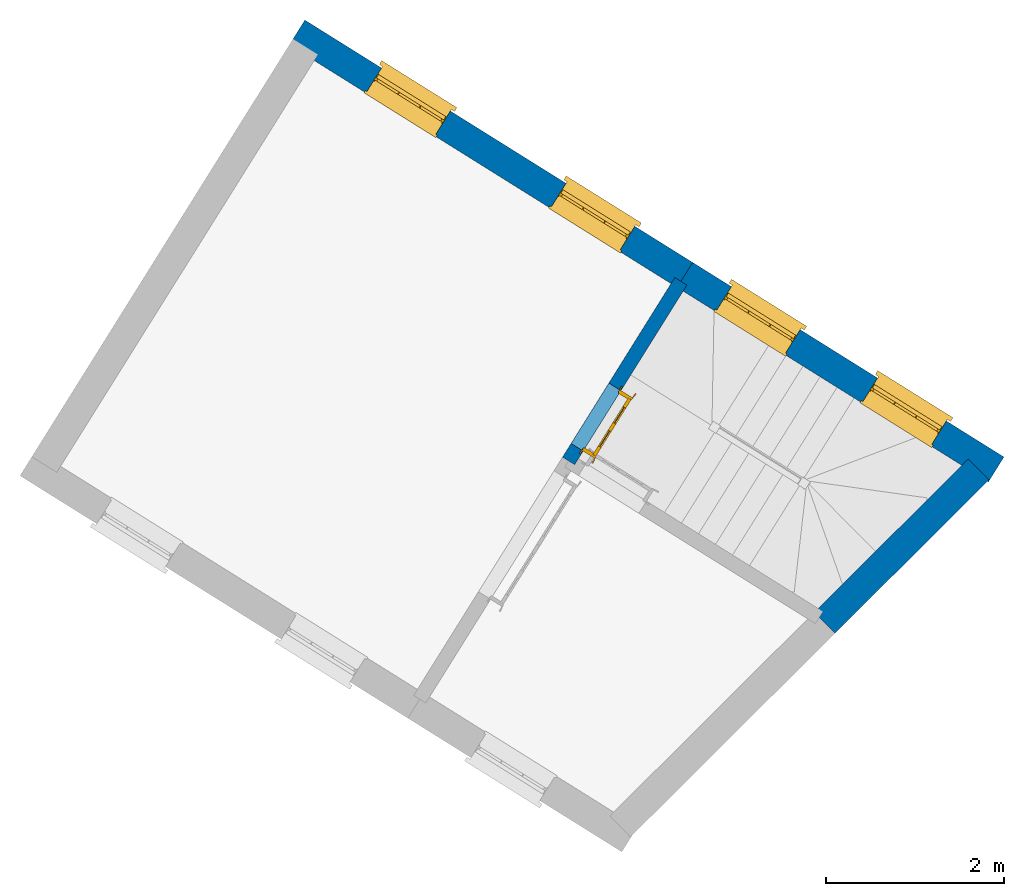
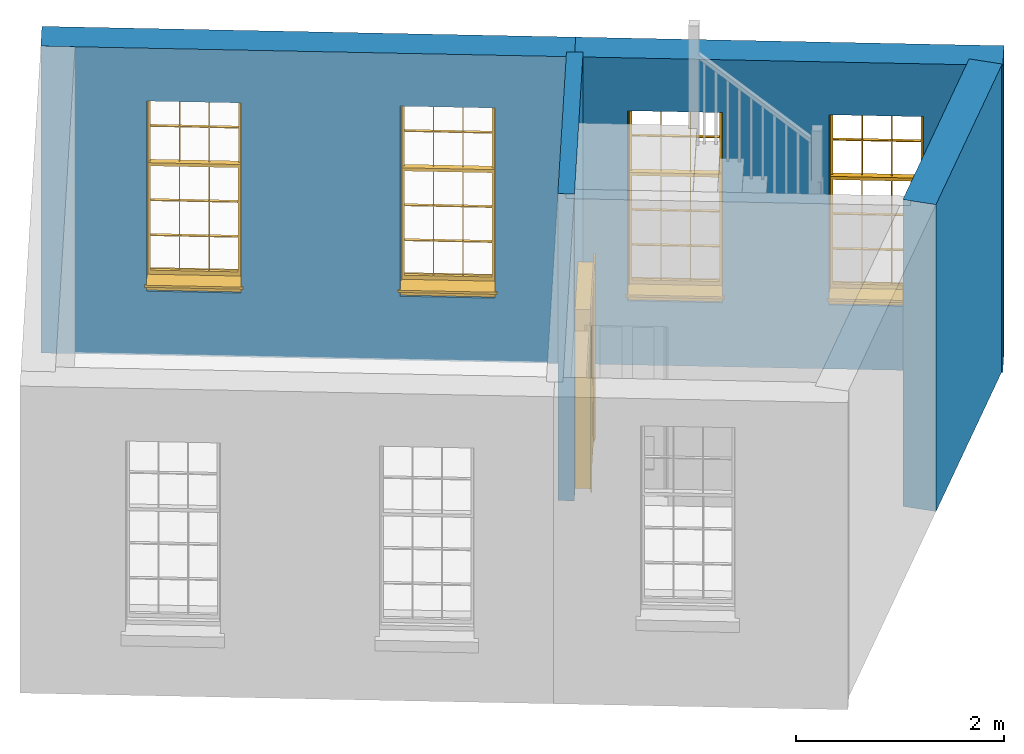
# One storey, part 3 of 3: 4 walls, 4 windows, 1 door, 5 openings.
"""IFC4 building model written with IfcOpenShell, lengths in metres."""

from ifc_helpers import new_model, si_unit, frame, origin, origin_with_axes, place, context, subcontext, project, spatial, polyline, outline, extrude, faceted_brep, source, transform, mapped, material, layer, layer_set, layer_usage, type_object, type_shapes, element, fill, save


model = new_model("IFC4")

# Units and contexts
model_context = context("Model", 3, world=origin_with_axes())
body_context = subcontext(model_context, "Body", "Model", "MODEL_VIEW")
ifc_project = project(units=[si_unit("PLANEANGLEUNIT", "RADIAN"), si_unit("MASSUNIT", "GRAM", prefix="KILO"), si_unit("FORCEUNIT", "NEWTON", prefix="KILO"), si_unit("LENGTHUNIT", "METRE"), si_unit("AREAUNIT", "SQUARE_METRE"), si_unit("VOLUMEUNIT", "CUBIC_METRE")], contexts=[model_context, model_context])

# Sites, building, storey
site_1_placement = place(None, origin_with_axes())
site_1 = spatial("IfcSite", under=ifc_project, at=site_1_placement, Name="Tamar")
site_2_placement = place(site_1_placement, origin_with_axes())
site_2 = spatial("IfcSite", under=site_1, at=site_2_placement, Name="Site plot-4", CompositionType="ELEMENT")
building_placement = place(None, origin_with_axes())
building = spatial("IfcBuilding", under=site_2, at=building_placement, Name="Building plot-4", CompositionType="ELEMENT")
storey_placement = place(None, frame((0.0, 0.0, 27.8), z_axis=(0.0, 0.0, 1.0), x_axis=(1.0, 0.0, 0.0)))
storey = spatial("IfcBuildingStorey", under=building, at=storey_placement, Name="plot-4 1", CompositionType="ELEMENT", Elevation=27.8)

# Wall, openings, windows
ifc_material_1 = material(Name="Masonry")
ifc_layer_1 = layer(ifc_material_1, 0.33, ventilated=False)
ifc_layer_set_1 = layer_set([ifc_layer_1], Name="exterior_0.08_0.25")
ifc_layer_usage_1 = layer_usage(ifc_layer_set_1, "AXIS2", "POSITIVE", -0.25)
wall_type_1 = type_object("IfcWallType", Name="exterior_0.08_0.25", PredefinedType="SOLIDWALL", material=ifc_layer_set_1)
wall_1_placement = place(storey_placement, frame((228.178329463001, 281.531399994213, 0.0), z_axis=(0.0, 0.0, 1.0), x_axis=(-0.847981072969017, 0.530026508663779, 0.0)))
wall_1 = element("IfcWall", 1, at=wall_1_placement, inside=storey, type_object=wall_type_1, material=ifc_layer_usage_1, Name="exterior", context=body_context, shape_type="SweptSolid", body=[
    extrude(outline(polyline([(-0.249999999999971, 0.0799999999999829), (-0.249999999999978, -0.250000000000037), (3.86736989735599, -0.250000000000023), (3.86736989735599, 0.0799999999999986), (-0.249999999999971, 0.0799999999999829)])), origin_with_axes(), (0.0, 0.0, 1.0), 3.6),
])
opening_1_placement = place(wall_1_placement, frame((0.511842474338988, 0.0, 0.75)))
opening_1 = element("IfcOpeningElement", 2, at=opening_1_placement, cuts=wall_1, Name="My Opening", ObjectType="Opening", context=body_context, shape_type="SweptSolid", body=[
    extrude(outline(polyline([(0.0, -0.269999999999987), (0.91, -0.270000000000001), (0.910000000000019, 1.09999999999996), (1.94289029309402e-14, 1.09999999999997), (0.0, -0.269999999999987)])), origin_with_axes(), (0.0, 0.0, 1.0), 2.23),
])
opening_2_placement = place(wall_1_placement, frame((2.44552742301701, 0.0, 0.75)))
opening_2 = element("IfcOpeningElement", 3, at=opening_2_placement, cuts=wall_1, Name="My Opening", ObjectType="Opening", context=body_context, shape_type="SweptSolid", body=[
    extrude(outline(polyline([(0.0, -0.270000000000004), (0.91, -0.270000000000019), (0.910000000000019, 1.09999999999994), (1.90958360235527e-14, 1.09999999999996), (0.0, -0.270000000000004)])), origin_with_axes(), (0.0, 0.0, 1.0), 2.23),
])
window_type = type_object("IfcWindowType", Name="sash_big_taller", PartitioningType="DOUBLE_PANEL_HORIZONTAL", PredefinedType="NOTDEFINED")
shared_shape_1 = source(origin(), body_context, "Body", "Brep", [
    faceted_brep([(0.033125, 0.145, 1.385209), (0.01, 0.145, 1.385209), (0.033125, 0.145, 1.786042), (0.876875, 0.145, 1.385209), (0.876875, 0.145, 1.786042), (0.9, 0.145, 1.385209), (0.876875, 0.145, 1.796042), (0.876875, 0.145, 2.196875), (0.9, 0.145, 2.22), (0.033125, 0.145, 2.196875), (0.033125, 0.145, 1.796042), (0.01, 0.145, 2.22), (0.876875, 0.115, 1.786042), (0.876875, 0.115, 1.385209), (0.9, 0.115, 1.347084), (0.033125, 0.115, 2.196875), (0.01, 0.115, 2.22), (0.033125, 0.115, 1.796042), (0.01, 0.115, 1.347084), (0.033125, 0.115, 1.385209), (0.033125, 0.115, 1.786042), (0.876875, 0.115, 2.196875), (0.876875, 0.115, 1.796042), (0.9, 0.115, 2.22), (0.033125, 0.145, 1.347084), (0.01, 0.145, 1.347084), (0.033125, 0.145, 0.94625), (0.876875, 0.145, 1.347084), (0.876875, 0.145, 0.94625), (0.9, 0.145, 1.347084), (0.876875, 0.145, 0.52625), (0.876875, 0.145, 0.125417), (0.9, 0.145, 0.077167), (0.033125, 0.145, 0.125417), (0.033125, 0.145, 0.52625), (0.01, 0.145, 0.077167), (-0.0425, 0.0, 0.01), (-0.0425, -0.05, 0.001667), (0.0, 0.0, 0.01), (0.9525, 0.0, 0.01), (0.91, 0.0, 0.01), (0.9525, -0.05, 0.001667), (-0.02, 0.33, 0.077167), (0.0, 0.33, 0.077167), (-0.02, 0.36, 0.077167), (0.0, 0.19, 0.077167), (0.01, 0.19, 0.077167), (0.91, 0.19, 0.077167), (0.91, 0.33, 0.077167), (0.9, 0.19, 0.077167), (0.93, 0.33, 0.077167), (0.93, 0.36, 0.077167), (0.01, 0.175, 1.385209), (0.9, 0.175, 1.385209), (0.876875, 0.175, 0.125417), (0.876875, 0.175, 0.52625), (0.9, 0.175, 0.077167), (0.876875, 0.175, 0.94625), (0.876875, 0.175, 1.347084), (0.033125, 0.175, 0.125417), (0.01, 0.175, 0.077167), (0.033125, 0.175, 0.52625), (0.033125, 0.175, 1.347084), (0.033125, 0.175, 0.94625), (-0.02, 0.33, 0.052167), (-0.02, 0.36, 0.052167), (0.93, 0.36, 0.052167), (0.93, 0.33, 0.052167), (0.91, 0.33, 0.052167), (0.0, 0.33, 0.052167), (0.91, 0.1, 0.026667), (0.0, 0.1, 0.026667), (-0.0425, -0.05, -0.123333), (0.9525, -0.05, -0.123333), (-0.0425, 0.0, -0.123333), (0.9525, 0.0, -0.123333), (0.01, 0.19, 2.22), (0.9, 0.19, 2.22), (0.0, 0.19, 2.23), (0.91, 0.19, 2.23), (0.01, 0.1, 0.077167), (0.9, 0.1, 0.077167), (0.592292, 0.145, 0.125417), (0.592292, 0.175, 0.125417), (0.317708, 0.175, 0.125417), (0.317708, 0.145, 0.125417), (0.592292, 0.145, 0.53625), (0.317708, 0.145, 0.53625), (0.317708, 0.145, 0.52625), (0.592292, 0.145, 0.52625), (0.592292, 0.175, 0.53625), (0.317708, 0.175, 0.53625), (0.592292, 0.115, 1.796042), (0.592292, 0.145, 1.796042), (0.317708, 0.145, 1.796042), (0.317708, 0.115, 1.796042), (0.317708, 0.115, 1.786042), (0.592292, 0.115, 1.786042), (0.317708, 0.145, 1.786042), (0.592292, 0.145, 1.786042), (0.602292, 0.115, 1.786042), (0.592292, 0.115, 1.385209), (0.602292, 0.115, 1.385209), (0.602292, 0.145, 1.385209), (0.592292, 0.145, 1.385209), (0.602292, 0.145, 1.786042), (0.876875, 0.145, 0.53625), (0.876875, 0.175, 0.53625), (0.602292, 0.175, 0.53625), (0.602292, 0.145, 0.53625), (0.317708, 0.175, 0.52625), (0.307708, 0.175, 0.125417), (0.307708, 0.175, 0.52625), (0.602292, 0.175, 0.52625), (0.602292, 0.175, 0.125417), (0.592292, 0.175, 0.52625), (0.307708, 0.175, 0.53625), (0.033125, 0.175, 0.53625), (0.317708, 0.175, 1.347084), (0.317708, 0.175, 0.94625), (0.307708, 0.175, 0.94625), (0.307708, 0.175, 1.347084), (0.602292, 0.175, 1.347084), (0.602292, 0.175, 0.94625), (0.592292, 0.175, 0.94625), (0.592292, 0.175, 1.347084), (0.307708, 0.145, 0.52625), (0.307708, 0.145, 0.125417), (0.307708, 0.145, 0.53625), (0.033125, 0.145, 0.53625), (0.307708, 0.145, 1.347084), (0.307708, 0.145, 0.94625), (0.592292, 0.145, 1.347084), (0.592292, 0.145, 0.94625), (0.317708, 0.145, 0.94625), (0.317708, 0.145, 1.347084), (0.602292, 0.145, 0.94625), (0.602292, 0.145, 1.347084), (0.602292, 0.145, 0.52625), (0.602292, 0.145, 0.125417), (0.307708, 0.115, 1.796042), (0.307708, 0.115, 1.786042), (0.307708, 0.115, 1.385209), (0.317708, 0.115, 1.385209), (0.317708, 0.115, 2.196875), (0.307708, 0.115, 2.196875), (0.602292, 0.115, 2.196875), (0.592292, 0.115, 2.196875), (0.602292, 0.115, 1.796042), (0.602292, 0.145, 1.796042), (0.307708, 0.145, 1.796042), (0.307708, 0.145, 2.196875), (0.317708, 0.145, 2.196875), (0.592292, 0.145, 2.196875), (0.602292, 0.145, 2.196875), (0.307708, 0.145, 1.786042), (0.317708, 0.145, 1.385209), (0.307708, 0.145, 1.385209), (0.876875, 0.175, 0.93625), (0.033125, 0.175, 0.93625), (0.033125, 0.145, 0.93625), (0.876875, 0.145, 0.93625), (0.91, 0.1, 2.23), (0.9, 0.1, 2.22), (0.01, 0.1, 2.22), (0.0, 0.1, 2.23), (0.91, 0.0, 0.0), (0.0, 0.0, 0.0), (0.91, 0.33, 0.0), (0.0, 0.33, 0.0), (0.317708, 0.145, 0.93625), (0.592292, 0.145, 0.93625), (0.317708, 0.175, 0.93625), (0.307708, 0.175, 0.93625), (0.602292, 0.175, 0.93625), (0.592292, 0.175, 0.93625), (0.307708, 0.145, 0.93625), (0.602292, 0.145, 0.93625)], [[[0, 1, 2]], [[3, 4, 5]], [[6, 7, 8]], [[9, 10, 11]], [[12, 13, 14]], [[15, 16, 17]], [[18, 19, 20]], [[21, 22, 23]], [[24, 25, 26]], [[27, 28, 29]], [[30, 31, 32]], [[33, 34, 35]], [[14, 27, 29]], [[25, 24, 18]], [[36, 37, 38]], [[39, 40, 41]], [[42, 43, 44]], [[45, 46, 43]], [[47, 48, 49]], [[50, 51, 48]], [[1, 0, 52]], [[5, 53, 3]], [[54, 55, 56]], [[57, 58, 53]], [[59, 60, 61]], [[62, 63, 52]], [[48, 43, 46, 49]], [[51, 44, 43, 48]], [[64, 42, 44, 65]], [[65, 44, 51, 66]], [[66, 51, 50, 67]], [[65, 66, 68, 69]], [[60, 56, 49, 46]], [[70, 71, 38, 40]], [[37, 41, 40, 38]], [[37, 72, 73, 41]], [[74, 75, 73, 72]], [[8, 11, 76, 77]], [[76, 78, 79, 77]], [[32, 35, 80, 81]], [[81, 80, 71, 70]], [[82, 83, 84, 85]], [[86, 87, 88, 89]], [[86, 90, 91, 87]], [[92, 93, 94, 95]], [[92, 95, 96, 97]], [[96, 98, 99, 97]], [[100, 97, 101, 102]], [[103, 104, 99, 105]], [[97, 99, 104, 101]], [[102, 103, 105, 100]], [[106, 107, 108, 109]], [[110, 84, 111, 112]], [[113, 114, 83, 115]], [[116, 112, 61, 117]], [[90, 115, 110, 91]], [[118, 119, 120, 121]], [[122, 123, 124, 125]], [[113, 108, 107, 55]], [[126, 112, 111, 127]], [[34, 61, 112, 126]], [[89, 115, 83, 82]], [[88, 110, 115, 89]], [[85, 84, 110, 88]], [[128, 116, 117, 129]], [[130, 121, 120, 131]], [[132, 125, 124, 133]], [[134, 119, 118, 135]], [[136, 123, 122, 137]], [[138, 113, 55, 30]], [[139, 114, 113, 138]], [[138, 30, 106, 109]], [[88, 126, 127, 85]], [[138, 89, 82, 139]], [[137, 132, 133, 136]], [[128, 129, 34, 126]], [[135, 130, 131, 134]], [[140, 17, 20, 141]], [[96, 141, 142, 143]], [[144, 145, 140, 95]], [[146, 147, 92, 148]], [[100, 12, 22, 148]], [[149, 6, 4, 105]], [[94, 150, 151, 152]], [[149, 93, 153, 154]], [[99, 98, 94, 93]], [[155, 2, 10, 150]], [[156, 157, 155, 98]], [[141, 155, 157, 142]], [[20, 2, 155, 141]], [[143, 156, 98, 96]], [[140, 150, 10, 17]], [[145, 151, 150, 140]], [[147, 153, 93, 92]], [[95, 94, 152, 144]], [[22, 6, 149, 148]], [[148, 149, 154, 146]], [[100, 105, 4, 12]], [[109, 86, 89, 138]], [[108, 113, 115, 90]], [[91, 110, 112, 116]], [[87, 128, 126, 88]], [[97, 100, 148, 92]], [[141, 96, 95, 140]], [[98, 155, 150, 94]], [[105, 99, 93, 149]], [[143, 101, 104, 156]], [[135, 118, 125, 132]], [[144, 152, 153, 147]], [[127, 111, 59, 33]], [[15, 9, 151, 145]], [[146, 154, 7, 21]], [[31, 54, 114, 139]], [[36, 74, 72, 37]], [[39, 41, 73, 75]], [[18, 14, 101, 143]], [[23, 16, 144, 147]], [[83, 56, 60, 84]], [[52, 53, 125, 118]], [[53, 52, 156, 104]], [[11, 8, 153, 152]], [[14, 18, 135, 132]], [[2, 1, 11, 10]], [[8, 5, 4, 6]], [[57, 53, 56, 158]], [[60, 52, 63, 159]], [[26, 25, 35, 160]], [[32, 29, 28, 161]], [[14, 23, 22, 12]], [[18, 20, 17, 16]], [[19, 0, 2, 20]], [[17, 10, 9, 15]], [[12, 4, 3, 13]], [[21, 7, 6, 22]], [[27, 58, 57, 28]], [[30, 55, 54, 31]], [[33, 59, 61, 34]], [[26, 63, 62, 24]], [[5, 8, 77, 53]], [[76, 11, 1, 52]], [[46, 45, 78, 76]], [[49, 77, 79, 47]], [[70, 162, 163, 81]], [[71, 80, 164, 165]], [[19, 142, 157, 0]], [[102, 13, 3, 103]], [[121, 130, 24, 62]], [[29, 32, 81, 14]], [[80, 35, 25, 18]], [[60, 46, 76, 52]], [[77, 49, 56, 53]], [[23, 14, 81, 163]], [[16, 164, 80, 18]], [[35, 85, 127]], [[127, 33, 35]], [[139, 82, 32]], [[32, 31, 139]], [[32, 82, 85, 35]], [[102, 101, 14]], [[14, 13, 102]], [[18, 143, 142]], [[142, 19, 18]], [[146, 21, 23]], [[23, 147, 146]], [[16, 15, 145]], [[145, 144, 16]], [[11, 152, 151]], [[151, 9, 11]], [[154, 153, 8]], [[8, 7, 154]], [[23, 163, 164, 16]], [[162, 165, 164, 163]], [[52, 118, 121]], [[121, 62, 52]], [[125, 53, 122]], [[58, 122, 53]], [[27, 137, 122, 58]], [[56, 83, 114]], [[114, 54, 56]], [[111, 84, 60]], [[60, 59, 111]], [[137, 27, 14]], [[14, 132, 137]], [[130, 135, 18]], [[18, 24, 130]], [[157, 156, 52]], [[52, 0, 157]], [[103, 3, 53]], [[53, 104, 103]], [[79, 78, 165, 162]], [[78, 45, 71, 165]], [[162, 70, 47, 79]], [[166, 75, 74, 167]], [[68, 66, 67]], [[48, 68, 67, 50]], [[69, 64, 65]], [[42, 64, 69, 43]], [[69, 68, 168, 169]], [[70, 68, 48, 47]], [[166, 168, 68, 70]], [[43, 69, 71, 45]], [[69, 169, 167, 71]], [[168, 166, 167, 169]], [[38, 167, 74, 36]], [[71, 167, 38]], [[39, 75, 166, 40]], [[40, 166, 70]], [[133, 134, 170, 171]], [[133, 124, 119, 134]], [[28, 57, 123, 136]], [[172, 91, 116, 173]], [[174, 108, 90, 175]], [[120, 173, 159, 63]], [[124, 175, 172, 119]], [[174, 123, 57, 158]], [[176, 173, 116, 128]], [[160, 159, 173, 176]], [[171, 175, 90, 86]], [[170, 172, 175, 171]], [[87, 91, 172, 170]], [[131, 120, 63, 26]], [[177, 174, 158, 161]], [[109, 108, 174, 177]], [[177, 161, 28, 136]], [[170, 176, 128, 87]], [[177, 171, 86, 109]], [[131, 26, 160, 176]], [[136, 133, 171, 177]], [[123, 174, 175, 124]], [[119, 172, 173, 120]], [[134, 131, 176, 170]], [[129, 117, 159, 160]], [[161, 158, 107, 106]], [[35, 34, 129]], [[35, 129, 160]], [[32, 106, 30]], [[32, 161, 106]], [[56, 55, 107]], [[56, 107, 158]], [[60, 117, 61]], [[60, 159, 117]]]),
])
type_shapes(window_type, [shared_shape_1])
window_1_placement = place(storey_placement, frame((227.887403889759, 282.031644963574, 0.75), z_axis=(0.0, 0.0, 1.0), x_axis=(-0.771662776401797, 0.482324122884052, 0.0)))
window_1 = element("IfcWindow", 4, at=window_1_placement, inside=storey, type_object=window_type, Name="circulation outside window", OverallHeight=2.23, OverallWidth=0.91, context=body_context, shape_type="MappedRepresentation", body=[
    mapped(shared_shape_1, transform((0.0, 0.0, 0.0), scale=1.0)),
])
fill(opening_1, window_1)
window_2_placement = place(storey_placement, frame((226.247675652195, 283.056549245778, 0.75), z_axis=(0.0, 0.0, 1.0), x_axis=(-0.771662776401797, 0.482324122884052, 0.0)))
window_2 = element("IfcWindow", 5, at=window_2_placement, inside=storey, type_object=window_type, Name="circulation outside window", OverallHeight=2.23, OverallWidth=0.91, context=body_context, shape_type="MappedRepresentation", body=[
    mapped(shared_shape_1, transform((0.0, 0.0, 0.0), scale=1.0)),
])
fill(opening_2, window_2)

wall_2_placement = place(storey_placement, frame((224.898872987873, 283.58120855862, 0.0), z_axis=(0.0, 0.0, 1.0), x_axis=(-0.847981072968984, 0.530026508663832, 0.0)))
wall_2 = element("IfcWall", 6, at=wall_2_placement, inside=storey, type_object=wall_type_1, material=ifc_layer_usage_1, Name="exterior", context=body_context, shape_type="SweptSolid", body=[
    extrude(outline(polyline([(7.53665158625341e-15, 0.0799999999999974), (2.09430120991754e-14, -0.250000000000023), (5.13049319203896, -0.249999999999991), (5.13049319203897, 0.0799999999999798), (7.53665158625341e-15, 0.0799999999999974)])), origin_with_axes(), (0.0, 0.0, 1.0), 3.6),
])
opening_3_placement = place(wall_2_placement, frame((0.765123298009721, 0.0, 0.75)))
opening_3 = element("IfcOpeningElement", 7, at=opening_3_placement, cuts=wall_2, Name="My Opening", ObjectType="Opening", context=body_context, shape_type="SweptSolid", body=[
    extrude(outline(polyline([(0.0, -0.269999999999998), (0.910000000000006, -0.27000000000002), (0.910000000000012, 1.09999999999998), (6.10622663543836e-15, 1.10000000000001), (0.0, -0.269999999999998)])), origin_with_axes(), (0.0, 0.0, 1.0), 2.23),
])
opening_4_placement = place(wall_2_placement, frame((3.20536989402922, 0.0, 0.75)))
opening_4 = element("IfcOpeningElement", 8, at=opening_4_placement, cuts=wall_2, Name="My Opening", ObjectType="Opening", context=body_context, shape_type="SweptSolid", body=[
    extrude(outline(polyline([(0.0, -0.270000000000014), (0.910000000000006, -0.270000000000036), (0.910000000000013, 1.09999999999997), (5.77315972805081e-15, 1.09999999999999), (0.0, -0.270000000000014)])), origin_with_axes(), (0.0, 0.0, 1.0), 2.23),
])
window_3_placement = place(storey_placement, frame((224.393170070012, 284.215699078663, 0.75), z_axis=(0.0, 0.0, 1.0), x_axis=(-0.771662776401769, 0.482324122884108, 0.0)))
window_3 = element("IfcWindow", 9, at=window_3_placement, inside=storey, type_object=window_type, Name="living outside window", OverallHeight=2.23, OverallWidth=0.91, context=body_context, shape_type="MappedRepresentation", body=[
    mapped(shared_shape_1, transform((0.0, 0.0, 0.0), scale=1.0)),
])
fill(opening_3, window_3)
window_4_placement = place(storey_placement, frame((222.323887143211, 285.50909446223, 0.75), z_axis=(0.0, 0.0, 1.0), x_axis=(-0.771662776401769, 0.482324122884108, 0.0)))
window_4 = element("IfcWindow", 10, at=window_4_placement, inside=storey, type_object=window_type, Name="living outside window", OverallHeight=2.23, OverallWidth=0.91, context=body_context, shape_type="MappedRepresentation", body=[
    mapped(shared_shape_1, transform((0.0, 0.0, 0.0), scale=1.0)),
])
fill(opening_4, window_4)

# Wall
ifc_material_2 = material(Name="Masonry")
ifc_layer_2 = layer(ifc_material_2, 0.33, ventilated=False)
ifc_layer_set_2 = layer_set([ifc_layer_2], Name="party_0.08_0.25")
ifc_layer_usage_2 = layer_usage(ifc_layer_set_2, "AXIS2", "POSITIVE", -0.25)
wall_type_2 = type_object("IfcWallType", Name="party_0.08_0.25", PredefinedType="SOLIDWALL", material=ifc_layer_set_2)
wall_3_placement = place(storey_placement, frame((226.449789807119, 279.809993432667, 0.0), z_axis=(0.0, 0.0, 1.0), x_axis=(0.708567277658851, 0.705643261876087, 0.0)))
element("IfcWall", 11, at=wall_3_placement, inside=storey, type_object=wall_type_2, material=ifc_layer_usage_2, Name="party", context=body_context, shape_type="SweptSolid", body=[
    extrude(outline(polyline([(9.02879133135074e-15, 0.0800000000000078), (1.19502055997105e-14, -0.250000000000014), (2.4394855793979, -0.249999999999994), (2.43948557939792, 0.0800000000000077), (9.02879133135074e-15, 0.0800000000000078)])), origin_with_axes(), (0.0, 0.0, 1.0), 3.6),
])

# Wall, opening, door
ifc_material_3 = material(Name="Masonry")
ifc_layer_3 = layer(ifc_material_3, 0.16, ventilated=False)
ifc_layer_set_3 = layer_set([ifc_layer_3], Name="interior_0.08_0.08")
ifc_layer_usage_3 = layer_usage(ifc_layer_set_3, "AXIS2", "POSITIVE", -0.08)
wall_type_3 = type_object("IfcWallType", Name="interior_0.08_0.08", PredefinedType="SOLIDWALL", material=ifc_layer_set_3)
wall_4_placement = place(storey_placement, frame((224.898872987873, 283.58120855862, 0.0), z_axis=(0.0, 0.0, 1.0), x_axis=(-0.530026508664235, -0.847981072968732, 0.0)))
wall_4 = element("IfcWall", 12, at=wall_4_placement, inside=storey, type_object=wall_type_3, material=ifc_layer_usage_3, Name="interior", context=body_context, shape_type="SweptSolid", body=[
    extrude(outline(polyline([(-3.04969791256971e-14, 0.0799999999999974), (3.04871819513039e-14, -0.0799999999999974), (2.3758920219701, -0.0799999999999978), (2.37589202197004, 0.0799999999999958), (-3.04969791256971e-14, 0.0799999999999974)])), origin_with_axes(), (0.0, 0.0, 1.0), 3.6),
])
opening_5_placement = place(wall_4_placement, frame((1.3958920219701, 0.0, 0.0199999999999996)))
opening_5 = element("IfcOpeningElement", 13, at=opening_5_placement, cuts=wall_4, Name="My Opening", ObjectType="Opening", context=body_context, shape_type="SweptSolid", body=[
    extrude(outline(polyline([(0.0, -0.0999999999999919), (0.799999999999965, -0.0999999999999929), (0.799999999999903, 1.09999999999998), (-6.26165785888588e-14, 1.09999999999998), (0.0, -0.0999999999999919)])), origin_with_axes(), (0.0, 0.0, 1.0), 2.1),
])
door_type = type_object("IfcDoorType", Name="door_inside", OperationType="SINGLE_SWING_LEFT", PredefinedType="NOTDEFINED")
shared_shape_2 = source(origin(), body_context, "Body", "Brep", [
    faceted_brep([(0.773, 0.33, 1.895), (0.66, 0.33, 1.895), (0.66, 0.33, 2.073), (0.773, 0.33, 2.073), (0.773, 0.33, 0.82), (0.66, 0.33, 0.82), (0.45, 0.33, 1.895), (0.45, 0.33, 2.073), (0.773, 0.33, 0.62), (0.66, 0.33, 0.62), (0.66, 0.315, 0.82), (0.66, 0.315, 1.895), (0.45, 0.315, 1.895), (0.35, 0.33, 1.895), (0.35, 0.33, 2.073), (0.773, 0.33, 0.225), (0.66, 0.33, 0.225), (0.45, 0.33, 0.62), (0.45, 0.33, 0.82), (0.45, 0.315, 0.82), (0.35, 0.33, 0.82), (0.14, 0.33, 2.073), (0.14, 0.33, 1.895), (0.773, 0.33, 0.0), (0.66, 0.33, 0.0), (0.66, 0.315, 0.225), (0.66, 0.315, 0.62), (0.45, 0.315, 0.62), (0.35, 0.33, 0.62), (0.35, 0.315, 0.82), (0.35, 0.315, 1.895), (0.14, 0.315, 1.895), (0.027, 0.33, 2.073), (0.027, 0.33, 1.895), (0.773, 0.292, 0.0), (0.66, 0.292, 0.0), (0.45, 0.33, 0.0), (0.45, 0.33, 0.225), (0.45, 0.315, 0.225), (0.35, 0.33, 0.225), (0.14, 0.33, 0.82), (0.14, 0.33, 0.62), (0.14, 0.315, 0.82), (0.027, 0.33, 0.82), (0.773, 0.292, 0.225), (0.66, 0.292, 0.225), (0.45, 0.292, 0.0), (0.35, 0.33, 0.0), (0.35, 0.315, 0.225), (0.35, 0.315, 0.62), (0.14, 0.315, 0.62), (0.027, 0.33, 0.62), (0.773, 0.292, 0.62), (0.66, 0.292, 0.62), (0.45, 0.292, 0.225), (0.35, 0.292, 0.0), (0.14, 0.33, 0.225), (0.14, 0.33, 0.0), (0.14, 0.315, 0.225), (0.027, 0.33, 0.225), (0.773, 0.292, 0.82), (0.66, 0.292, 0.82), (0.66, 0.307, 0.62), (0.66, 0.307, 0.225), (0.45, 0.307, 0.225), (0.35, 0.292, 0.225), (0.14, 0.292, 0.0), (0.027, 0.33, 0.0), (0.773, 0.292, 1.895), (0.66, 0.292, 1.895), (0.45, 0.292, 0.62), (0.45, 0.292, 0.82), (0.45, 0.307, 0.62), (0.35, 0.292, 0.62), (0.14, 0.292, 0.225), (0.027, 0.292, 0.0), (0.773, 0.292, 2.073), (0.66, 0.292, 2.073), (0.66, 0.307, 1.895), (0.66, 0.307, 0.82), (0.45, 0.307, 0.82), (0.35, 0.292, 0.82), (0.35, 0.307, 0.62), (0.35, 0.307, 0.225), (0.14, 0.307, 0.225), (0.027, 0.292, 0.225), (0.45, 0.292, 1.895), (0.45, 0.292, 2.073), (0.45, 0.307, 1.895), (0.35, 0.292, 1.895), (0.14, 0.292, 0.82), (0.14, 0.292, 0.62), (0.14, 0.307, 0.62), (0.027, 0.292, 0.62), (0.35, 0.292, 2.073), (0.35, 0.307, 1.895), (0.35, 0.307, 0.82), (0.14, 0.307, 0.82), (0.027, 0.292, 0.82), (0.14, 0.292, 2.073), (0.14, 0.292, 1.895), (0.14, 0.307, 1.895), (0.027, 0.292, 1.895), (0.027, 0.292, 2.073), (0.02, 0.335, 0.0), (0.005, 0.34, 0.0), (0.005, 0.34, 2.095), (0.02, 0.335, 2.08), (0.02, 0.33, 0.0), (0.0, 0.335, 0.0), (0.0, 0.335, 2.1), (0.795, 0.34, 2.095), (0.78, 0.335, 2.08), (0.02, 0.33, 2.08), (0.0, 0.33, 0.0), (-0.032, 0.345, 0.0), (-0.032, 0.345, 2.132), (0.8, 0.335, 2.1), (0.795, 0.34, 0.0), (0.78, 0.335, 0.0), (0.78, 0.33, 2.08), (0.04, 0.29, 0.0), (0.025, 0.29, 0.0), (0.025, 0.29, 2.075), (0.04, 0.29, 2.06), (-0.04, 0.34, 0.0), (-0.04, 0.34, 2.14), (0.832, 0.345, 2.132), (0.8, 0.335, 0.0), (0.78, 0.33, 0.0), (0.8, 0.33, 0.0), (0.86, 0.33, 0.0), (0.86, 0.33, 2.16), (0.8, 0.33, 2.1), (-0.06, 0.33, 2.16), (0.0, 0.33, 2.1), (-0.06, 0.33, 0.0), (-0.04, 0.345, 0.0), (-0.04, 0.345, 2.14), (0.84, 0.34, 2.14), (0.832, 0.345, 0.0), (0.84, 0.34, 0.0), (0.86, 0.345, 0.0), (0.86, 0.345, 2.16), (-0.06, 0.345, 2.16), (-0.06, 0.345, 0.0), (0.84, 0.345, 0.0), (0.84, 0.345, 2.14), (-0.025, 0.155, 0.0), (-0.025, 0.16, 0.0), (-0.025, 0.16, 2.125), (-0.025, 0.155, 2.125), (-0.017, 0.155, 0.0), (-0.017, 0.155, 2.117), (0.825, 0.16, 2.125), (0.825, 0.155, 2.125), (0.825, 0.155, 0.0), (0.845, 0.155, 0.0), (-0.045, 0.155, 2.145), (-0.045, 0.155, 0.0), (0.845, 0.155, 2.145), (0.015, 0.165, 0.0), (0.015, 0.165, 2.085), (0.817, 0.155, 2.117), (0.825, 0.16, 0.0), (0.845, 0.17, 0.0), (0.845, 0.17, 2.145), (-0.045, 0.17, 2.145), (-0.045, 0.17, 0.0), (0.02, 0.16, 0.0), (0.02, 0.16, 2.08), (0.785, 0.165, 2.085), (0.817, 0.155, 0.0), (0.8, 0.17, 0.0), (0.8, 0.17, 2.1), (0.0, 0.17, 2.1), (0.0, 0.17, 0.0), (0.035, 0.165, 0.0), (0.035, 0.165, 2.065), (0.78, 0.16, 2.08), (0.785, 0.165, 0.0), (0.775, 0.29, 2.075), (0.76, 0.29, 2.06), (0.035, 0.17, 2.065), (0.035, 0.17, 0.0), (0.765, 0.165, 2.065), (0.78, 0.16, 0.0), (0.765, 0.17, 0.0), (0.765, 0.17, 2.065), (0.765, 0.165, 0.0), (0.04, 0.17, 2.06), (0.04, 0.17, 0.0), (0.76, 0.17, 2.06), (0.76, 0.17, 0.0), (0.76, 0.29, 0.0), (0.775, 0.29, 0.0), (0.025, 0.33, 0.0), (0.025, 0.33, 2.075), (0.775, 0.33, 0.0), (0.775, 0.33, 2.075)], [[[0, 1, 2, 3]], [[1, 0, 4, 5]], [[1, 6, 7, 2]], [[8, 9, 5, 4]], [[1, 5, 10, 11]], [[6, 1, 11, 12]], [[6, 13, 14, 7]], [[15, 16, 9, 8]], [[9, 17, 18, 5]], [[5, 18, 19, 10]], [[10, 19, 12, 11]], [[18, 6, 12, 19]], [[18, 20, 13, 6]], [[21, 14, 13, 22]], [[23, 24, 16, 15]], [[9, 16, 25, 26]], [[17, 9, 26, 27]], [[17, 28, 20, 18]], [[13, 20, 29, 30]], [[22, 13, 30, 31]], [[32, 21, 22, 33]], [[34, 35, 24, 23]], [[24, 36, 37, 16]], [[16, 37, 38, 25]], [[25, 38, 27, 26]], [[37, 17, 27, 38]], [[37, 39, 28, 17]], [[40, 20, 28, 41]], [[20, 40, 42, 29]], [[31, 30, 29, 42]], [[40, 22, 31, 42]], [[33, 22, 40, 43]], [[35, 34, 44, 45]], [[35, 46, 36, 24]], [[36, 47, 39, 37]], [[28, 39, 48, 49]], [[41, 28, 49, 50]], [[43, 40, 41, 51]], [[45, 44, 52, 53]], [[46, 35, 45, 54]], [[46, 55, 47, 36]], [[56, 39, 47, 57]], [[39, 56, 58, 48]], [[50, 49, 48, 58]], [[56, 41, 50, 58]], [[51, 41, 56, 59]], [[53, 52, 60, 61]], [[45, 53, 62, 63]], [[54, 45, 63, 64]], [[55, 46, 54, 65]], [[55, 66, 57, 47]], [[59, 56, 57, 67]], [[61, 60, 68, 69]], [[70, 53, 61, 71]], [[53, 70, 72, 62]], [[72, 64, 63, 62]], [[70, 54, 64, 72]], [[65, 54, 70, 73]], [[65, 74, 66, 55]], [[67, 57, 66, 75]], [[69, 68, 76, 77]], [[61, 69, 78, 79]], [[71, 61, 79, 80]], [[73, 70, 71, 81]], [[65, 73, 82, 83]], [[74, 65, 83, 84]], [[74, 85, 75, 66]], [[86, 69, 77, 87]], [[69, 86, 88, 78]], [[88, 80, 79, 78]], [[86, 71, 80, 88]], [[81, 71, 86, 89]], [[73, 81, 90, 91]], [[73, 91, 92, 82]], [[83, 82, 92, 84]], [[91, 74, 84, 92]], [[91, 93, 85, 74]], [[89, 86, 87, 94]], [[81, 89, 95, 96]], [[90, 81, 96, 97]], [[90, 98, 93, 91]], [[94, 99, 100, 89]], [[89, 100, 101, 95]], [[101, 97, 96, 95]], [[100, 90, 97, 101]], [[100, 102, 98, 90]], [[99, 103, 102, 100]], [[32, 103, 99, 21]], [[102, 103, 32, 33]], [[98, 102, 33, 43]], [[21, 99, 94, 14]], [[94, 87, 7, 14]], [[7, 87, 77, 2]], [[76, 3, 2, 77]], [[43, 51, 93, 98]], [[51, 59, 85, 93]], [[67, 75, 85, 59]], [[34, 23, 15, 44]], [[44, 15, 8, 52]], [[52, 8, 4, 60]], [[0, 68, 60, 4]], [[0, 3, 76, 68]], [[104, 105, 106, 107]], [[104, 108, 109, 105]], [[105, 109, 110, 106]], [[107, 106, 111, 112]], [[107, 113, 108, 104]], [[114, 109, 108]], [[109, 115, 116, 110]], [[106, 110, 117, 111]], [[112, 111, 118, 119]], [[113, 107, 112, 120]], [[121, 122, 123, 124]], [[115, 109, 114, 125]], [[115, 125, 126, 116]], [[110, 116, 127, 117]], [[111, 117, 128, 118]], [[118, 128, 129, 119]], [[120, 112, 119, 129]], [[130, 129, 128]], [[130, 131, 132, 133]], [[133, 132, 134, 135]], [[135, 134, 136, 114]], [[136, 125, 114]], [[125, 137, 138, 126]], [[116, 126, 139, 127]], [[117, 127, 140, 128]], [[141, 130, 128, 140]], [[131, 130, 141]], [[131, 142, 143, 132]], [[132, 143, 144, 134]], [[134, 144, 145, 136]], [[137, 125, 136, 145]], [[143, 142, 146]], [[143, 146, 147]], [[137, 145, 144]], [[143, 147, 138]], [[138, 137, 144]], [[143, 138, 144]], [[126, 138, 147, 139]], [[127, 139, 141, 140]], [[142, 131, 141, 146]], [[139, 147, 146, 141]], [[148, 149, 150, 151]], [[149, 152, 153, 150]], [[151, 150, 154, 155]], [[155, 156, 157]], [[158, 159, 148]], [[158, 148, 151]], [[155, 157, 160]], [[158, 151, 155]], [[155, 160, 158]], [[152, 161, 162, 153]], [[150, 153, 163, 154]], [[155, 154, 164, 156]], [[156, 164, 165, 157]], [[157, 165, 166, 160]], [[160, 166, 167, 158]], [[158, 167, 168, 159]], [[161, 169, 170, 162]], [[153, 162, 171, 163]], [[154, 163, 172, 164]], [[165, 164, 173]], [[165, 173, 174, 166]], [[166, 174, 175, 167]], [[167, 175, 176, 168]], [[169, 177, 178, 170]], [[162, 170, 179, 171]], [[163, 171, 180, 172]], [[172, 180, 173, 164]], [[124, 123, 181, 182]], [[183, 178, 177, 184]], [[170, 178, 185, 179]], [[171, 179, 186, 180]], [[187, 173, 180]], [[185, 188, 187, 189]], [[188, 185, 178, 183]], [[179, 185, 189, 186]], [[189, 187, 180, 186]], [[190, 183, 184, 191]], [[192, 188, 183, 190]], [[191, 184, 122, 121]], [[124, 190, 191, 121]], [[193, 187, 188, 192]], [[182, 192, 190, 124]], [[184, 176, 122]], [[194, 195, 187, 193]], [[192, 182, 194, 193]], [[161, 176, 184]], [[114, 108, 122, 176]], [[173, 187, 195]], [[152, 149, 176, 161]], [[169, 161, 184, 177]], [[196, 122, 108]], [[176, 175, 135, 114]], [[173, 195, 129, 130]], [[176, 149, 168]], [[123, 122, 196, 197]], [[196, 108, 113, 197]], [[175, 174, 133, 135]], [[198, 129, 195]], [[133, 174, 173, 130]], [[159, 168, 149, 148]], [[181, 123, 197, 199]], [[197, 113, 120, 199]], [[199, 120, 129, 198]], [[195, 181, 199, 198]], [[195, 194, 182, 181]]]),
])
type_shapes(door_type, [shared_shape_2])
door_placement = place(storey_placement, frame((224.074215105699, 282.450521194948, 0.0199999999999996), z_axis=(0.0, 0.0, 1.0), x_axis=(-0.424021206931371, -0.678384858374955, 0.0)))
door = element("IfcDoor", 14, at=door_placement, inside=storey, type_object=door_type, Name="living inside door", OverallHeight=2.1, OverallWidth=0.8, context=body_context, shape_type="MappedRepresentation", body=[
    mapped(shared_shape_2, transform((0.0, 0.0, 0.0), scale=1.0)),
])
fill(opening_5, door)

save(model, "model.ifc")
